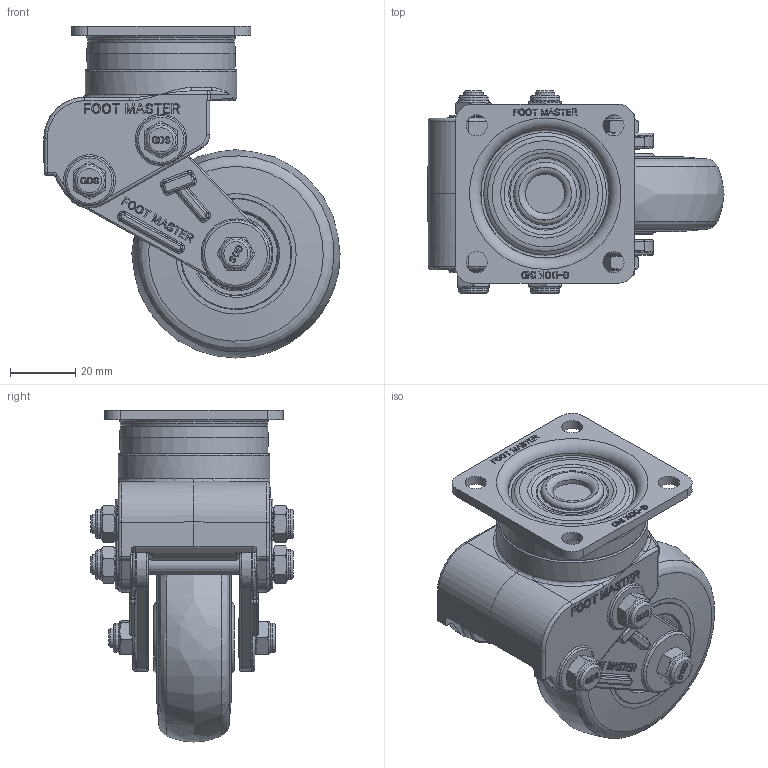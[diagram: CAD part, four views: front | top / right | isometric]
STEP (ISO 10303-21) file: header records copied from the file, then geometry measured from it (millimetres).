
FILE_DESCRIPTION(/* description */ (''),/* implementation_level */ '2;1');
FILE_NAME(/* name */ '\\192.168.10.38\지덕공유\1.기술연구소\2.연구개발 완료\완료_55.소형 충격흡수식캐스터_GDS-50.65\5.홈페이지 도면\3D\GDSA-65-ASF-EUS-1.stp',/* time_stamp */ '2024-12-05T10:00:44+09:00',/* author */ ('admin'),/* organization */ (''),/* preprocessor_version */ 'ST-DEVELOPER v18.1',/* originating_system */ 'Autodesk Inventor 2021',/* authorisation */ '');
FILE_SCHEMA (('AUTOMOTIVE_DESIGN { 1 0 10303 214 3 1 1 }'));
Length unit declared in the file: millimetre
Products named in the file (1): GDSA-65-ASF-EUS
Bounding box: 91 x 62.3 x 102 mm (x, y, z)
Volume: 145194.5 mm3; surface area: 45933.5 mm2
Topology: 1 solids, 1 shells, 1926 faces, 5095 edges, 3289 vertices
Faces by surface type: plane 756, bspline 642, cylinder 239, cone 154, torus 119, sphere 16
Full cylindrical faces by diameter (mm): 6 x5, 6.5 x4, 8.8 x3, 9 x6, 12 x1, 17.216 x2, 18 x1, 19.3 x1, 20 x2, 22 x2, 22.784 x2, 30 x1, 43 x1, 44.5 x1, 46.5 x1
Entity records: 67403 total; most frequent: CARTESIAN_POINT 21682, ORIENTED_EDGE 10170, DIRECTION 7336, EDGE_CURVE 5085, VERTEX_POINT 3289, LINE 2462, VECTOR 2462, AXIS2_PLACEMENT_3D 2437
